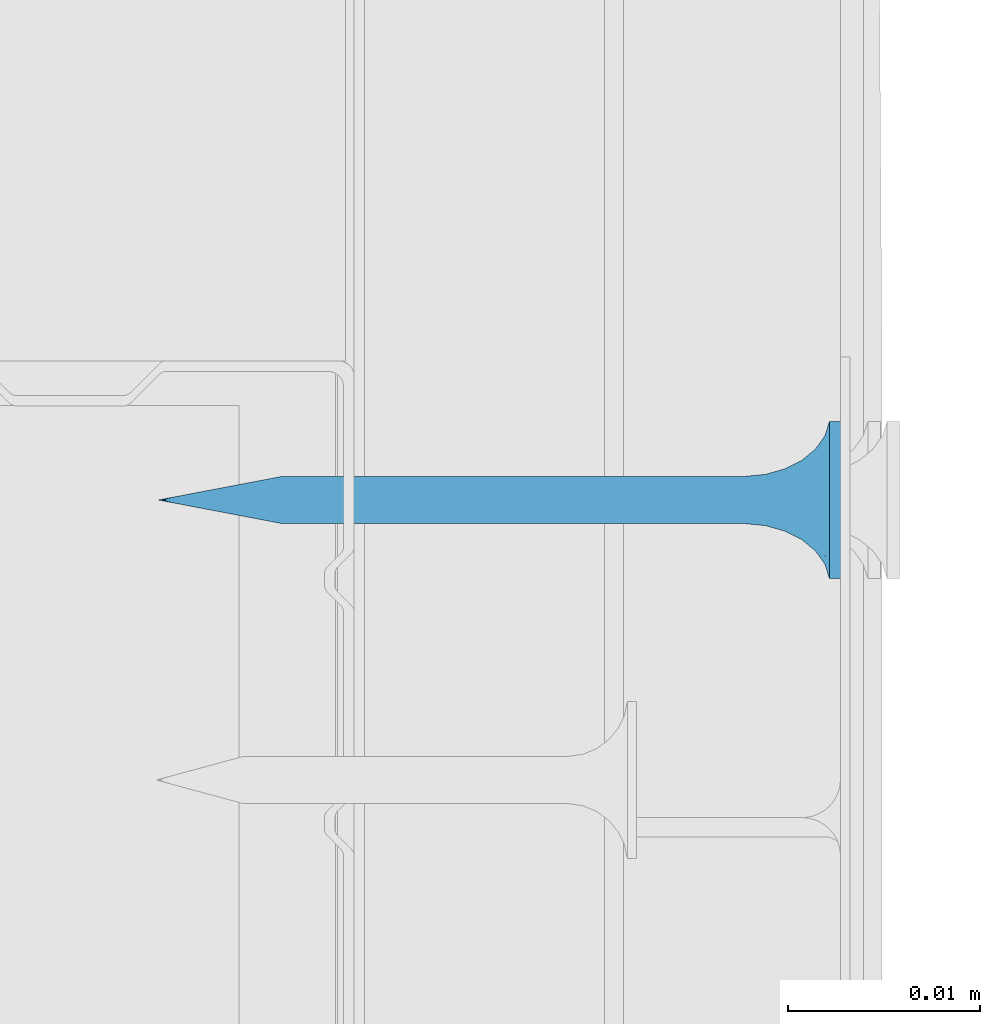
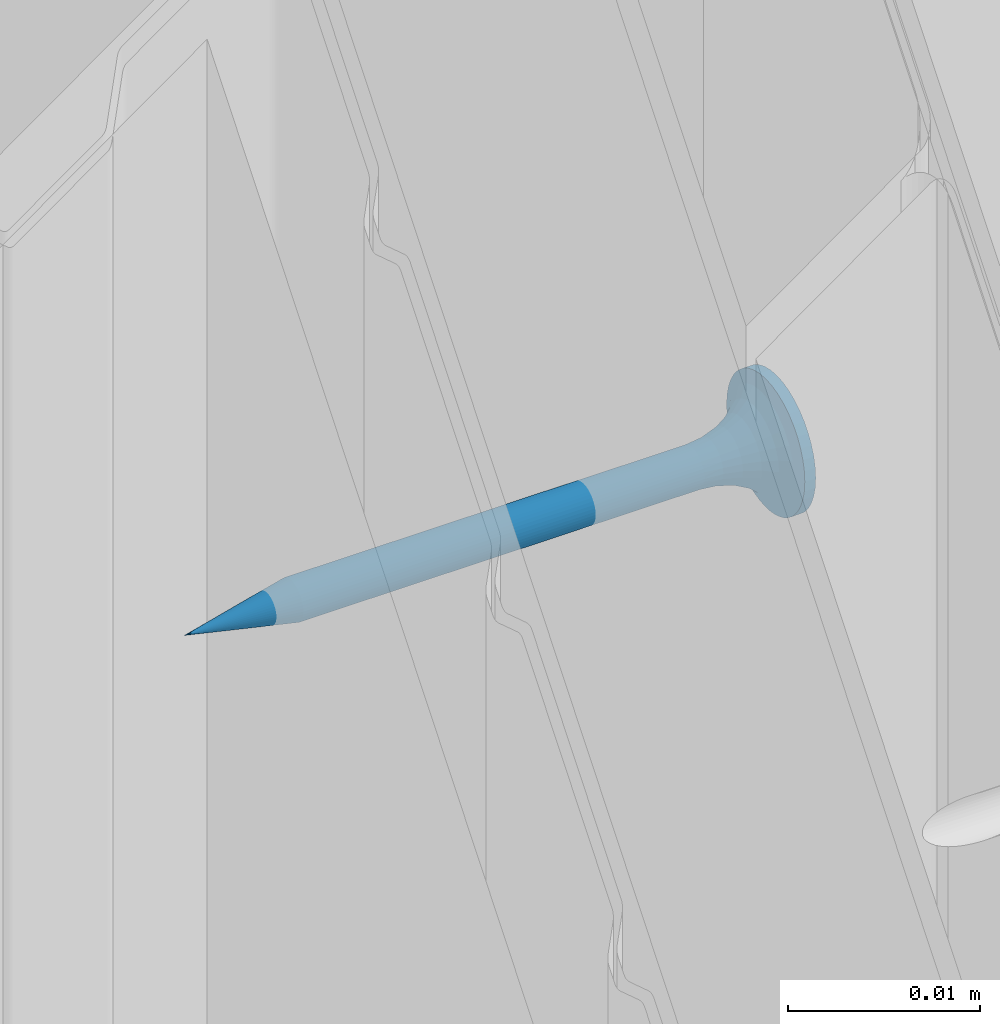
# One storey, part 59 of 95: 1 wall.
"""IFC2X3 building model written with IfcOpenShell, lengths in millimetres."""

from ifc_helpers import new_model, entity, si_unit, converted_unit, direction, frame, origin, origin_with_axes, place, context, project, spatial, faceted_brep, element, save


model = new_model("IFC2X3")

# Units and contexts
model_context = context("Model", 3, precision=1e-05, world=origin(), true_north=direction((0.0, 1.0, 0.0)))
ifc_project = project(units=[si_unit("LENGTHUNIT", "METRE", prefix="MILLI"), si_unit("AREAUNIT", "SQUARE_METRE"), si_unit("VOLUMEUNIT", "CUBIC_METRE"), converted_unit("PLANEANGLEUNIT", "DEGREE", entity("IfcPlaneAngleMeasure", 0.01745), si_unit("PLANEANGLEUNIT", "RADIAN"), dimensions=[0, 0, 0, 0, 0, 0, 0]), si_unit("SOLIDANGLEUNIT", "STERADIAN"), si_unit("MASSUNIT", "GRAM"), si_unit("TIMEUNIT", "SECOND"), si_unit("THERMODYNAMICTEMPERATUREUNIT", "DEGREE_CELSIUS"), si_unit("LUMINOUSINTENSITYUNIT", "LUMEN")], contexts=[model_context])

# Site, building, storey
site_placement = place(None, origin_with_axes())
site = spatial("IfcSite", under=ifc_project, at=site_placement, Name="Default Site", CompositionType="ELEMENT")
building_placement = place(site_placement, origin_with_axes())
building = spatial("IfcBuilding", under=site, at=building_placement, Name="Default Building", CompositionType="ELEMENT")
storey_placement = place(building_placement, origin_with_axes())
storey = spatial("IfcBuildingStorey", under=building, at=storey_placement, Name="Default Building Storey", CompositionType="ELEMENT", Elevation=0.0)

# Wall
wall_placement = place(storey_placement, frame((-1966.902392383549, 1569.934940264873, -74.90960477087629), z_axis=(0.0, 0.0, 1.0), x_axis=(3.748251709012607e-13, 1.0, 0.0)))
element("IfcWall", 1, at=wall_placement, inside=storey, Name="Wkręt RIGIPS TN 35", context=model_context, shape_type="Brep", body=[
    faceted_brep([(-138.5557071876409, -4828.206294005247, 555.2413100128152), (-138.5557071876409, -4804.093757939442, 555.2413100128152), (-138.6296059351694, -4804.093757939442, 555.4197173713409), (-138.6296059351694, -4828.206294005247, 555.4197173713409), (-138.329396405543, -4828.206294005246, 554.9298199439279), (-138.329396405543, -4804.093757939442, 554.9298199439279), (-138.4548091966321, -4804.093757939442, 555.0766594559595), (-138.4548091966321, -4828.206294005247, 555.0766594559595), (-137.0789337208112, -4828.206294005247, 556.9703895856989), (-137.0789337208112, -4804.093757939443, 556.9703895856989), (-136.9005263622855, -4804.093757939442, 556.8964908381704), (-136.9005263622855, -4828.206294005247, 556.8964908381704), (-138.6296059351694, -4804.093757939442, 556.1802826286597), (-138.6296059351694, -4828.206294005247, 556.1802826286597), (-138.6746858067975, -4828.206294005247, 555.9925114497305), (-138.6746858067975, -4804.093757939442, 555.9925114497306), (-138.0179063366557, -4828.206294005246, 554.7035091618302), (-138.0179063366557, -4804.093757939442, 554.7035091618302), (-138.1825568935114, -4804.093757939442, 554.8044071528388), (-138.1825568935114, -4828.206294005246, 554.8044071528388), (-137.83949897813, -4828.206294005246, 554.6296104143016), (-137.83949897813, -4804.093757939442, 554.6296104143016), (-137.4592163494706, -4804.093757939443, 554.5693795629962), (-137.4592163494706, -4828.206294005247, 554.5693795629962), (-137.2667048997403, -4828.206294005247, 554.5845305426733), (-137.2667048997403, -4804.093757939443, 554.5845305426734), (-136.9005263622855, -4804.093757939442, 554.7035091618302), (-136.9005263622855, -4828.206294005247, 554.7035091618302), (-136.7358758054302, -4828.206294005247, 554.8044071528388), (-136.7358758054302, -4804.093757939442, 554.8044071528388), (-138.0179063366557, -4828.206294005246, 556.8964908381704), (-138.0179063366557, -4804.093757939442, 556.8964908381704), (-137.83949897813, -4804.093757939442, 556.9703895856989), (-137.83949897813, -4828.206294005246, 556.9703895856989), (-136.3627255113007, -4828.206294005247, 556.3586899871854), (-136.3627255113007, -4804.093757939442, 556.3586899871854), (-136.2888267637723, -4804.093757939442, 556.1802826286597), (-136.2888267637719, -4828.206294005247, 556.1802826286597), (-138.329396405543, -4828.206294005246, 556.6701800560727), (-138.329396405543, -4804.093757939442, 556.6701800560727), (-138.1825568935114, -4804.093757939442, 556.7955928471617), (-138.1825568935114, -4828.206294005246, 556.7955928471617), (-138.6746858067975, -4804.093757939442, 555.60748855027), (-138.6746858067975, -4828.206294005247, 555.60748855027), (-137.2667048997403, -4828.206294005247, 557.0154694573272), (-137.2667048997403, -4804.093757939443, 557.0154694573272), (-136.2888267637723, -4804.093757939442, 555.4197173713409), (-136.2888267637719, -4828.206294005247, 555.4197173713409), (-136.2437468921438, -4828.206294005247, 555.60748855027), (-136.2437468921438, -4804.093757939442, 555.60748855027), (-136.5890362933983, -4828.206294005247, 554.9298199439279), (-136.5890362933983, -4804.093757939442, 554.9298199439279), (-137.651727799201, -4828.206294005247, 554.5845305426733), (-137.651727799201, -4804.093757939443, 554.5845305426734), (-136.4636235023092, -4828.206294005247, 555.0766594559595), (-136.4636235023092, -4804.093757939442, 555.0766594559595), (-136.7358758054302, -4804.093757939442, 556.7955928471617), (-136.7358758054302, -4828.206294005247, 556.7955928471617), (-136.3627255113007, -4804.093757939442, 555.2413100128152), (-136.3627255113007, -4828.206294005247, 555.2413100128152), (-136.2437468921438, -4828.206294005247, 555.9925114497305), (-136.2437468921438, -4804.093757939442, 555.9925114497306), (-136.2285959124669, -4804.093757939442, 555.8000000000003), (-136.2285959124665, -4828.206294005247, 555.8000000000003), (-138.6898367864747, -4828.206294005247, 555.8000000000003), (-138.6898367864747, -4804.093757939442, 555.8000000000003), (-136.5890362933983, -4828.206294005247, 556.6701800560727), (-136.5890362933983, -4804.093757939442, 556.6701800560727), (-136.4636235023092, -4804.093757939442, 556.5233405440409), (-136.4636235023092, -4828.206294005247, 556.5233405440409), (-137.0789337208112, -4804.093757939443, 554.6296104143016), (-137.0789337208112, -4828.206294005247, 554.6296104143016), (-137.4592163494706, -4804.093757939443, 557.0306204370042), (-137.4592163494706, -4828.206294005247, 557.0306204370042), (-137.651727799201, -4828.206294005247, 557.0154694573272), (-137.651727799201, -4804.093757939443, 557.0154694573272), (-138.5557071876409, -4804.093757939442, 556.3586899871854), (-138.5557071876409, -4828.206294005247, 556.3586899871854), (-138.4548091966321, -4828.206294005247, 556.5233405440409), (-138.4548091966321, -4804.093757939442, 556.5233405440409), (-141.5377463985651, -4832.598051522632, 555.8000000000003), (-141.5377463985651, -4833.259713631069, 555.8000000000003), (-141.4875329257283, -4833.259713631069, 555.1619773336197), (-141.4875329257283, -4832.598051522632, 555.1619773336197), (-141.3381289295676, -4833.259713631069, 554.5396649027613), (-141.3381289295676, -4832.598051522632, 554.5396649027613), (-141.0932132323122, -4833.259713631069, 553.9483861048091), (-141.0932132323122, -4832.598051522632, 553.9483861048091), (-140.7588164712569, -4833.259713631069, 553.4027001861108), (-140.7588164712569, -4832.598051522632, 553.4027001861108), (-140.3431726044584, -4833.259713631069, 552.9160437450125), (-140.4541727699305, -4832.598051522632, 553.0314907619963), (-140.1080097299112, -4832.598051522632, 552.6986614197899), (-139.8565161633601, -4833.259713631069, 552.500399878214), (-139.7251262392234, -4832.598051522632, 552.4088262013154), (-139.3108302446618, -4833.259713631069, 552.1660031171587), (-139.3108302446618, -4832.598051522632, 552.1660031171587), (-138.8708651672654, -4832.598051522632, 551.9735584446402), (-138.7195514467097, -4833.259713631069, 551.9210874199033), (-138.4113302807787, -4832.598051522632, 551.8341600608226), (-137.9385961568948, -4832.598051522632, 551.7497404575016), (-138.0972390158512, -4833.259713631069, 551.7716834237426), (-137.4592163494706, -4833.259713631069, 551.7214699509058), (-137.4592163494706, -4832.598051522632, 551.7214699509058), (-136.8211936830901, -4833.259713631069, 551.7716834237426), (-136.8211936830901, -4832.598051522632, 551.7716834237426), (-136.1988812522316, -4833.259713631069, 551.9210874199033), (-136.1988812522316, -4832.598051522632, 551.9210874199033), (-135.6076024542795, -4833.259713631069, 552.1660031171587), (-135.6076024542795, -4832.598051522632, 552.1660031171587), (-135.0619165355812, -4833.259713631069, 552.500399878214), (-135.0619165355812, -4832.598051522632, 552.500399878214), (-134.5752600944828, -4833.259713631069, 552.9160437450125), (-134.5752600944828, -4832.598051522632, 552.9160437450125), (-134.1596162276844, -4833.259713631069, 553.4027001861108), (-134.1596162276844, -4832.598051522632, 553.4027001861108), (-133.8252194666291, -4833.259713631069, 553.9483861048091), (-133.8252194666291, -4832.598051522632, 553.9483861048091), (-133.5803037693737, -4833.259713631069, 554.5396649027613), (-133.5803037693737, -4832.598051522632, 554.5396649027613), (-133.430899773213, -4833.259713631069, 556.4380226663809), (-133.430899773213, -4832.598051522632, 556.4380226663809), (-133.3806863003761, -4832.598051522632, 555.8000000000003), (-133.3806863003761, -4833.259713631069, 555.8000000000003), (-133.430899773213, -4832.598051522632, 555.1619773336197), (-133.430899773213, -4833.259713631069, 555.1619773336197), (-133.5803037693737, -4833.259713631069, 557.0603350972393), (-133.5803037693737, -4832.598051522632, 557.0603350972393), (-133.8252194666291, -4833.259713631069, 557.6516138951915), (-133.8252194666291, -4832.598051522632, 557.6516138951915), (-134.1596162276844, -4833.259713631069, 558.1972998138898), (-134.1596162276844, -4832.598051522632, 558.1972998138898), (-134.5752600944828, -4833.259713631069, 558.6839562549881), (-134.5752600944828, -4832.598051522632, 558.6839562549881), (-135.0619165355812, -4833.259713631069, 559.0996001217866), (-135.0619165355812, -4832.598051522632, 559.0996001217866), (-135.6076024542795, -4833.259713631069, 559.4339968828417), (-135.6076024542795, -4832.598051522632, 559.4339968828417), (-136.1988812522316, -4833.259713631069, 559.6789125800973), (-136.1988812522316, -4832.598051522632, 559.6789125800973), (-136.8211936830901, -4833.259713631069, 559.8283165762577), (-136.8211936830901, -4832.598051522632, 559.8283165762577), (-137.4592163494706, -4833.259713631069, 559.8785300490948), (-137.4592163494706, -4832.598051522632, 559.8785300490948), (-138.0972390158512, -4833.259713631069, 559.8283165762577), (-138.0972390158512, -4832.598051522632, 559.8283165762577), (-138.7195514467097, -4833.259713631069, 559.6789125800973), (-138.7195514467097, -4832.598051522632, 559.6789125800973), (-139.3108302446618, -4833.259713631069, 559.4339968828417), (-139.3108302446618, -4832.598051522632, 559.4339968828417), (-139.8565161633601, -4833.259713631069, 559.0996001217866), (-139.8565161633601, -4832.598051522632, 559.0996001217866), (-140.3431726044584, -4833.259713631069, 558.6839562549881), (-140.3431726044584, -4832.598051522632, 558.6839562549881), (-140.7588164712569, -4833.259713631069, 558.1972998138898), (-140.7588164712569, -4832.598051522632, 558.1972998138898), (-141.0932132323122, -4833.259713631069, 557.6516138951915), (-141.0932132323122, -4832.598051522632, 557.6516138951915), (-141.3381289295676, -4833.259713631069, 557.0603350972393), (-141.3381289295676, -4832.598051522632, 557.0603350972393), (-141.4875329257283, -4833.259713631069, 556.4380226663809), (-141.4875329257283, -4832.598051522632, 556.4380226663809), (-137.8060615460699, -4829.281368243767, 554.5055560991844), (-137.4592163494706, -4829.281368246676, 554.4598930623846), (-138.1292698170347, -4829.281368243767, 554.6394333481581), (-138.4068150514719, -4829.281368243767, 554.8524012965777), (-138.6197830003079, -4829.281368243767, 555.1299465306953), (-138.7536602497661, -4829.281368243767, 555.4531548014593), (-138.7993232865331, -4829.281368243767, 555.7999999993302), (-138.753660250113, -4829.281368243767, 556.1468451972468), (-138.6197830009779, -4829.281368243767, 556.4700534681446), (-138.4068150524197, -4829.281368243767, 556.7475987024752), (-138.1292698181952, -4829.281368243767, 556.9605666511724), (-137.8060615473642, -4829.281368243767, 557.0944439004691), (-137.4592163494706, -4829.281368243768, 557.1401069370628), (-137.112371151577, -4829.281368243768, 557.0944439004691), (-136.7891628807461, -4829.281368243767, 556.9605666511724), (-136.5116176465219, -4829.281368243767, 556.7475987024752), (-136.2986496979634, -4829.281368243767, 556.4700534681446), (-136.1647724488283, -4829.281368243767, 556.1468451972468), (-136.1191094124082, -4829.281368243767, 555.7999999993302), (-136.1647724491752, -4829.281368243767, 555.4531548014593), (-136.2986496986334, -4829.281368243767, 555.1299465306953), (-136.5116176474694, -4829.281368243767, 554.8524012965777), (-136.7891628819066, -4829.281368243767, 554.6394333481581), (-137.1123711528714, -4829.281368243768, 554.5055560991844), (-137.4592163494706, -4830.288222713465, 554.1737111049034), (-137.8801308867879, -4830.288222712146, 554.229125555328), (-138.2723607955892, -4830.288222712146, 554.3915925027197), (-138.6091762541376, -4830.288222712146, 554.6500400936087), (-138.8676238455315, -4830.288222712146, 554.9868555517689), (-139.0300907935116, -4830.288222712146, 555.3790854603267), (-139.0855052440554, -4830.288222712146, 555.7999999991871), (-139.0300907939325, -4830.288222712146, 556.220914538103), (-138.8676238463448, -4830.288222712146, 556.6131444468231), (-138.6091762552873, -4830.288222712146, 556.9499599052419), (-138.2723607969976, -4830.288222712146, 557.2084074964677), (-137.8801308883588, -4830.288222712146, 557.3708744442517), (-137.4592163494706, -4830.288222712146, 557.426288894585), (-137.0383018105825, -4830.288222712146, 557.3708744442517), (-136.6460719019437, -4830.288222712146, 557.2084074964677), (-136.309256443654, -4830.288222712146, 556.9499599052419), (-136.0508088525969, -4830.288222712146, 556.6131444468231), (-135.8883419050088, -4830.288222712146, 556.220914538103), (-135.8329274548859, -4830.288222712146, 555.7999999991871), (-135.8883419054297, -4830.288222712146, 555.3790854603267), (-136.0508088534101, -4830.288222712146, 554.9868555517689), (-136.309256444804, -4830.288222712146, 554.6500400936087), (-136.6460719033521, -4830.288222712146, 554.3915925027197), (-137.0383018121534, -4830.288222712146, 554.229125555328), (-137.4592163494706, -4831.168773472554, 553.7273431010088), (-137.9956594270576, -4831.168773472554, 553.7979671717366), (-138.4955447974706, -4831.168773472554, 554.0050264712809), (-138.9248060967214, -4831.168773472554, 554.3344102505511), (-139.2541898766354, -4831.168773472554, 554.763671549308), (-139.4612491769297, -4831.168773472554, 555.2635569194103), (-139.5318732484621, -4831.168773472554, 555.799999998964), (-139.461249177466, -4831.168773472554, 556.3364430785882), (-139.2541898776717, -4831.168773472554, 556.8363284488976), (-138.9248060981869, -4831.168773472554, 557.2655897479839), (-138.4955447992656, -4831.168773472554, 557.594973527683), (-137.9956594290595, -4831.168773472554, 557.8020328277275), (-137.4592163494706, -4831.168773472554, 557.8726568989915), (-136.9227732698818, -4831.168773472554, 557.8020328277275), (-136.4228878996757, -4831.168773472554, 557.594973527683), (-135.9936266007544, -4831.168773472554, 557.2655897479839), (-135.6642428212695, -4831.168773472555, 556.8363284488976), (-135.4571835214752, -4831.168773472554, 556.3364430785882), (-135.3865594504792, -4831.168773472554, 555.799999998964), (-135.4571835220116, -4831.168773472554, 555.2635569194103), (-135.6642428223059, -4831.168773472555, 554.763671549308), (-135.9936266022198, -4831.168773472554, 554.3344102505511), (-136.4228879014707, -4831.168773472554, 554.0050264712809), (-136.9227732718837, -4831.168773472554, 553.7979671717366), (-137.459216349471, -4831.872222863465, 553.1465393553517), (-138.1459824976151, -4831.872222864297, 553.2369538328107), (-138.7859466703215, -4831.872222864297, 553.5020356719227), (-139.3354963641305, -4831.872222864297, 553.9237199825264), (-139.7571806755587, -4831.872222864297, 554.4732696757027), (-140.0222625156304, -4831.872222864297, 555.1132338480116), (-140.1126769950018, -4831.872222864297, 555.7999999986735), (-140.0222625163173, -4831.872222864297, 556.4867661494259), (-139.7571806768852, -4831.872222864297, 557.1267303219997), (-139.3354963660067, -4831.872222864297, 557.6762800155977), (-138.7859466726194, -4831.872222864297, 558.097964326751), (-138.1459825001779, -4831.872222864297, 558.363046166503), (-137.459216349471, -4831.872222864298, 558.4534606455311), (-136.7724501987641, -4831.872222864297, 558.363046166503), (-136.1324860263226, -4831.872222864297, 558.097964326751), (-135.5829363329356, -4831.872222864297, 557.6762800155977), (-135.1612520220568, -4831.872222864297, 557.1267303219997), (-134.896170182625, -4831.872222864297, 556.4867661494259), (-134.8057557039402, -4831.872222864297, 555.7999999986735), (-134.8961701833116, -4831.872222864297, 555.1132338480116), (-135.1612520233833, -4831.872222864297, 554.4732696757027), (-135.5829363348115, -4831.872222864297, 553.9237199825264), (-136.1324860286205, -4831.872222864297, 553.5020356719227), (-136.7724502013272, -4831.872222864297, 553.2369538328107), (-137.4592163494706, -4832.357989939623, 552.4648055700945), (-138.3224281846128, -4832.357989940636, 552.578449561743), (-139.1268135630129, -4832.357989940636, 552.9116368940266), (-139.8175549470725, -4832.357989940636, 553.4416613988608), (-140.3475794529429, -4832.357989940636, 554.1324027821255), (-140.6807667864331, -4832.357989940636, 554.936788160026), (-140.7944107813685, -4832.357989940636, 555.7999999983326), (-140.6807667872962, -4832.357989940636, 556.663211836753), (-140.3475794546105, -4832.357989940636, 557.4675972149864), (-139.817554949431, -4832.357989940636, 558.1583385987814), (-139.1268135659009, -4832.357989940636, 558.6883631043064), (-138.3224281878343, -4832.357989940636, 559.0215504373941), (-137.4592163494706, -4832.357989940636, 559.1351944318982), (-136.5960045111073, -4832.357989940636, 559.0215504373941), (-135.7916191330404, -4832.357989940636, 558.6883631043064), (-135.1008777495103, -4832.357989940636, 558.1583385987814), (-134.5708532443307, -4832.357989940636, 557.4675972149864), (-134.2376659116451, -4832.357989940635, 556.663211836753), (-134.1240219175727, -4832.357989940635, 555.7999999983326), (-134.2376659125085, -4832.357989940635, 554.936788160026), (-134.5708532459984, -4832.357989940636, 554.1324027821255), (-135.1008777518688, -4832.357989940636, 553.4416613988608), (-135.7916191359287, -4832.357989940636, 552.9116368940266), (-136.5960045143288, -4832.357989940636, 552.578449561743), (-137.4592163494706, -4797.627063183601, 555.8000000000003), (-139.9592163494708, -4833.259713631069, 556.3000000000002), (-137.9592163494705, -4833.259713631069, 556.3000000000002), (-139.9592163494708, -4833.259713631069, 555.3000000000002), (-137.9592163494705, -4833.259713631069, 555.3000000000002), (-137.9592163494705, -4833.259713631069, 553.3000000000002), (-136.9592163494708, -4833.259713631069, 553.3000000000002), (-136.9592163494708, -4833.259713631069, 555.3000000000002), (-134.9592163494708, -4833.259713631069, 555.3000000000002), (-134.9592163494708, -4833.259713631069, 556.3000000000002), (-136.9592163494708, -4833.259713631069, 556.3000000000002), (-136.9592163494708, -4833.259713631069, 558.3000000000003), (-137.9592163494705, -4833.259713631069, 558.3000000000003), (-136.9592163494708, -4831.988379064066, 556.3000000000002), (-134.9592163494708, -4831.988379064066, 556.3000000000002), (-134.9592163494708, -4831.988379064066, 555.3000000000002), (-136.9592163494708, -4831.988379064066, 555.3000000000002), (-136.9592163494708, -4831.988379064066, 553.3000000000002), (-137.9592163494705, -4831.988379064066, 553.3000000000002), (-137.9592163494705, -4831.988379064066, 555.3000000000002), (-139.9592163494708, -4831.988379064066, 555.3000000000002), (-139.9592163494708, -4831.988379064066, 556.3000000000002), (-137.9592163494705, -4831.988379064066, 556.3000000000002), (-137.9592163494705, -4831.988379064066, 558.3000000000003), (-136.9592163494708, -4831.988379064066, 558.3000000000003)], [[[0, 1, 2, 3]], [[4, 5, 6, 7]], [[8, 9, 10, 11]], [[12, 13, 14, 15]], [[1, 0, 7, 6]], [[16, 17, 18, 19]], [[20, 21, 17, 16]], [[22, 23, 24, 25]], [[26, 27, 28, 29]], [[30, 31, 32, 33]], [[34, 35, 36, 37]], [[38, 39, 40, 41]], [[3, 2, 42, 43]], [[9, 8, 44, 45]], [[46, 47, 48, 49]], [[50, 51, 29, 28]], [[5, 4, 19, 18]], [[21, 20, 52, 53]], [[23, 22, 53, 52]], [[51, 50, 54, 55]], [[11, 10, 56, 57]], [[47, 46, 58, 59]], [[60, 61, 62, 63]], [[64, 65, 15, 14]], [[37, 36, 61, 60]], [[66, 67, 68, 69]], [[27, 26, 70, 71]], [[71, 70, 25, 24]], [[59, 58, 55, 54]], [[63, 62, 49, 48]], [[35, 34, 69, 68]], [[67, 66, 57, 56]], [[72, 73, 74, 75]], [[13, 12, 76, 77]], [[73, 72, 45, 44]], [[39, 38, 78, 79]], [[33, 32, 75, 74]], [[77, 76, 79, 78]], [[31, 30, 41, 40]], [[65, 64, 43, 42]], [[80, 81, 82, 83]], [[84, 85, 83, 82]], [[86, 87, 85, 84]], [[87, 86, 88, 89]], [[88, 90, 89]], [[90, 91, 89]], [[92, 91, 93]], [[91, 90, 93]], [[93, 94, 92]], [[93, 95, 94]], [[95, 96, 94]], [[97, 96, 98]], [[96, 95, 98]], [[98, 99, 97]], [[100, 99, 101]], [[99, 98, 101]], [[101, 102, 100]], [[102, 103, 100]], [[103, 102, 104, 105]], [[106, 107, 105, 104]], [[108, 109, 107, 106]], [[109, 108, 110, 111]], [[112, 113, 111, 110]], [[113, 112, 114, 115]], [[116, 117, 115, 114]], [[118, 119, 117, 116]], [[120, 121, 122, 123]], [[123, 122, 124, 125]], [[119, 118, 125, 124]], [[126, 127, 121, 120]], [[128, 129, 127, 126]], [[129, 128, 130, 131]], [[132, 133, 131, 130]], [[133, 132, 134, 135]], [[136, 137, 135, 134]], [[138, 139, 137, 136]], [[139, 138, 140, 141]], [[142, 143, 141, 140]], [[143, 142, 144, 145]], [[146, 147, 145, 144]], [[148, 149, 147, 146]], [[149, 148, 150, 151]], [[152, 153, 151, 150]], [[153, 152, 154, 155]], [[156, 157, 155, 154]], [[158, 159, 157, 156]], [[159, 158, 160, 161]], [[81, 80, 161, 160]], [[162, 23, 52]], [[162, 163, 23]], [[52, 20, 162]], [[162, 20, 164]], [[16, 164, 20]], [[164, 16, 19]], [[19, 165, 164]], [[19, 4, 165]], [[166, 4, 7]], [[166, 165, 4]], [[7, 0, 166]], [[166, 0, 167]], [[3, 167, 0]], [[167, 3, 43]], [[43, 168, 167]], [[43, 64, 168]], [[169, 64, 14]], [[169, 168, 64]], [[14, 13, 169]], [[169, 13, 170]], [[77, 170, 13]], [[170, 77, 78]], [[78, 171, 170]], [[78, 38, 171]], [[172, 38, 41]], [[172, 171, 38]], [[41, 30, 172]], [[172, 30, 173]], [[33, 173, 30]], [[173, 33, 74]], [[74, 174, 173]], [[74, 73, 174]], [[175, 73, 44]], [[175, 174, 73]], [[44, 8, 175]], [[175, 8, 176]], [[11, 176, 8]], [[176, 11, 57]], [[57, 177, 176]], [[57, 66, 177]], [[178, 66, 69]], [[178, 177, 66]], [[69, 34, 178]], [[178, 34, 179]], [[37, 179, 34]], [[179, 37, 60]], [[60, 180, 179]], [[60, 63, 180]], [[181, 63, 48]], [[181, 180, 63]], [[48, 47, 181]], [[181, 47, 182]], [[59, 182, 47]], [[182, 59, 54]], [[54, 183, 182]], [[54, 50, 183]], [[184, 50, 28]], [[184, 183, 50]], [[28, 27, 184]], [[184, 27, 185]], [[71, 185, 27]], [[185, 71, 24]], [[24, 163, 185]], [[24, 23, 163]], [[186, 163, 187]], [[162, 187, 163]], [[164, 188, 187, 162]], [[165, 189, 188, 164]], [[166, 190, 189, 165]], [[167, 191, 190, 166]], [[168, 192, 191, 167]], [[169, 193, 192, 168]], [[170, 194, 193, 169]], [[171, 195, 194, 170]], [[172, 196, 195, 171]], [[173, 197, 196, 172]], [[174, 198, 197, 173]], [[175, 199, 198, 174]], [[176, 200, 199, 175]], [[177, 201, 200, 176]], [[178, 202, 201, 177]], [[179, 203, 202, 178]], [[180, 204, 203, 179]], [[181, 205, 204, 180]], [[182, 206, 205, 181]], [[183, 207, 206, 182]], [[184, 208, 207, 183]], [[185, 209, 208, 184]], [[185, 163, 209]], [[186, 209, 163]], [[210, 186, 211]], [[187, 211, 186]], [[188, 212, 211, 187]], [[189, 213, 212, 188]], [[190, 214, 213, 189]], [[191, 215, 214, 190]], [[192, 216, 215, 191]], [[193, 217, 216, 192]], [[194, 218, 217, 193]], [[195, 219, 218, 194]], [[196, 220, 219, 195]], [[197, 221, 220, 196]], [[198, 222, 221, 197]], [[199, 223, 222, 198]], [[200, 224, 223, 199]], [[201, 225, 224, 200]], [[202, 226, 225, 201]], [[203, 227, 226, 202]], [[204, 228, 227, 203]], [[205, 229, 228, 204]], [[206, 230, 229, 205]], [[207, 231, 230, 206]], [[208, 232, 231, 207]], [[209, 233, 232, 208]], [[209, 186, 233]], [[210, 233, 186]], [[234, 210, 235]], [[211, 235, 210]], [[212, 236, 235, 211]], [[213, 237, 236, 212]], [[214, 238, 237, 213]], [[215, 239, 238, 214]], [[216, 240, 239, 215]], [[217, 241, 240, 216]], [[218, 242, 241, 217]], [[219, 243, 242, 218]], [[220, 244, 243, 219]], [[221, 245, 244, 220]], [[222, 246, 245, 221]], [[223, 247, 246, 222]], [[224, 248, 247, 223]], [[225, 249, 248, 224]], [[226, 250, 249, 225]], [[227, 251, 250, 226]], [[228, 252, 251, 227]], [[229, 253, 252, 228]], [[230, 254, 253, 229]], [[231, 255, 254, 230]], [[232, 256, 255, 231]], [[233, 257, 256, 232]], [[233, 210, 257]], [[234, 257, 210]], [[258, 99, 100]], [[258, 259, 99]], [[100, 103, 258]], [[258, 234, 259]], [[235, 259, 234]], [[259, 96, 97]], [[259, 260, 96]], [[97, 99, 259]], [[236, 260, 259, 235]], [[261, 91, 92]], [[260, 92, 94]], [[260, 261, 92]], [[94, 96, 260]], [[237, 261, 260, 236]], [[262, 87, 89]], [[89, 261, 262]], [[89, 91, 261]], [[238, 262, 261, 237]], [[85, 87, 263]], [[262, 263, 87]], [[239, 263, 262, 238]], [[263, 80, 83]], [[263, 264, 80]], [[83, 85, 263]], [[240, 264, 263, 239]], [[265, 159, 161]], [[161, 264, 265]], [[161, 80, 264]], [[241, 265, 264, 240]], [[265, 266, 157, 159]], [[242, 266, 265, 241]], [[266, 153, 155]], [[266, 267, 153]], [[155, 157, 266]], [[243, 267, 266, 242]], [[268, 149, 151]], [[151, 267, 268]], [[151, 153, 267]], [[244, 268, 267, 243]], [[268, 269, 147, 149]], [[245, 269, 268, 244]], [[269, 143, 145]], [[269, 270, 143]], [[145, 147, 269]], [[246, 270, 269, 245]], [[271, 139, 141]], [[141, 270, 271]], [[141, 143, 270]], [[247, 271, 270, 246]], [[271, 272, 137, 139]], [[248, 272, 271, 247]], [[272, 133, 135]], [[272, 273, 133]], [[135, 137, 272]], [[249, 273, 272, 248]], [[274, 129, 131]], [[131, 273, 274]], [[131, 133, 273]], [[250, 274, 273, 249]], [[274, 275, 127, 129]], [[251, 275, 274, 250]], [[275, 122, 121]], [[275, 276, 122]], [[121, 127, 275]], [[252, 276, 275, 251]], [[277, 119, 124]], [[124, 276, 277]], [[124, 122, 276]], [[253, 277, 276, 252]], [[117, 119, 278]], [[277, 278, 119]], [[254, 278, 277, 253]], [[278, 113, 115]], [[278, 279, 113]], [[115, 117, 278]], [[255, 279, 278, 254]], [[280, 109, 111]], [[111, 279, 280]], [[111, 113, 279]], [[256, 280, 279, 255]], [[107, 109, 281]], [[280, 281, 109]], [[257, 281, 280, 256]], [[257, 234, 281]], [[258, 281, 234]], [[281, 103, 105]], [[281, 258, 103]], [[105, 107, 281]], [[42, 2, 282]], [[282, 65, 42]], [[2, 1, 282]], [[6, 5, 282]], [[282, 1, 6]], [[18, 17, 282]], [[282, 5, 18]], [[17, 21, 282]], [[53, 22, 282]], [[282, 21, 53]], [[25, 70, 282]], [[282, 22, 25]], [[70, 26, 282]], [[29, 51, 282]], [[282, 26, 29]], [[55, 58, 282]], [[282, 51, 55]], [[58, 46, 282]], [[49, 62, 282]], [[282, 46, 49]], [[61, 36, 282]], [[282, 62, 61]], [[36, 35, 282]], [[68, 67, 282]], [[282, 35, 68]], [[56, 10, 282]], [[282, 67, 56]], [[10, 9, 282]], [[45, 72, 282]], [[282, 9, 45]], [[75, 32, 282]], [[282, 72, 75]], [[32, 31, 282]], [[40, 39, 282]], [[282, 31, 40]], [[79, 76, 282]], [[282, 39, 79]], [[76, 12, 282]], [[15, 65, 282]], [[282, 12, 15]], [[283, 156, 154, 284]], [[283, 285, 286, 287, 288, 289, 290, 291, 292, 293, 294, 284, 154, 152, 150, 148, 146, 144, 142, 140, 138, 136, 134, 132, 130, 128, 126, 120, 123, 125, 118, 116, 114, 112, 110, 108, 106, 104, 102, 101, 98, 95, 93, 90, 88, 86, 84, 82, 81, 160, 158, 156]], [[295, 296, 297, 298, 299, 300, 301, 302, 303, 304, 305, 306]], [[297, 290, 289, 298]], [[296, 291, 290, 297]], [[295, 292, 291, 296]], [[306, 293, 292, 295]], [[305, 294, 293, 306]], [[304, 284, 294, 305]], [[303, 283, 284, 304]], [[302, 285, 283, 303]], [[301, 286, 285, 302]], [[300, 287, 286, 301]], [[299, 288, 287, 300]], [[298, 289, 288, 299]]]),
])

save(model, "model.ifc")
